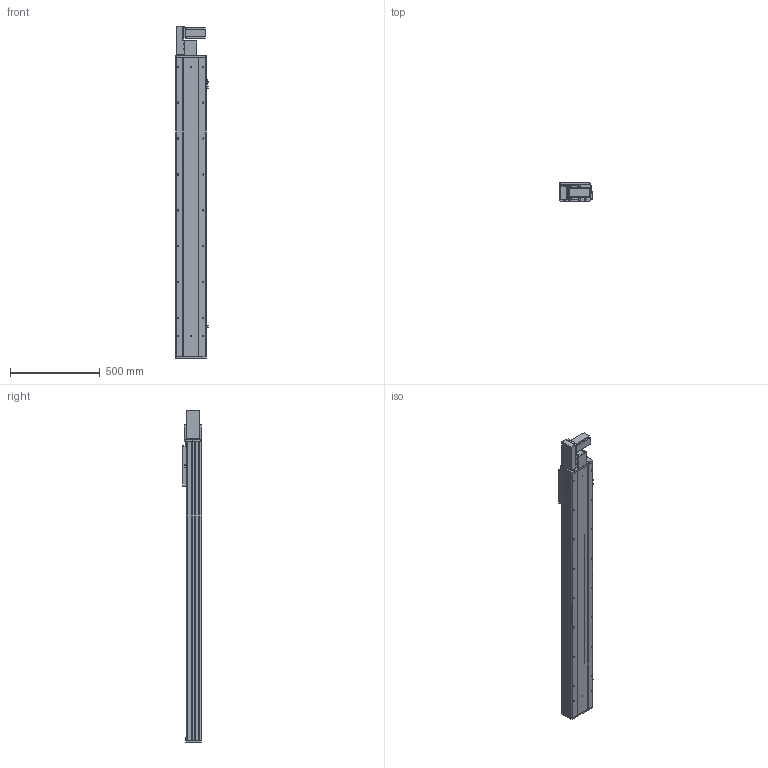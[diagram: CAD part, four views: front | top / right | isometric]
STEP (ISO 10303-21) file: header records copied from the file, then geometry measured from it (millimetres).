
FILE_DESCRIPTION (( 'STEP AP203' ), '1' );
FILE_NAME ('Y170CB-D105-S1350-BL-P400W.STEP', '2020-02-20T01:23:19', ( '微软用户' ), ( '微软中国' ), 'SwSTEP 2.0', 'SolidWorks 2017', '' );
FILE_SCHEMA (( 'CONFIG_CONTROL_DESIGN' ));
Length unit declared in the file: millimetre
Products named in the file (18): san松下电机400不带刹车----; 70CB-詩湍--; Y70俋欶BR----; Y100-135俋离換覜ん--; 70CB-掛极-; Y170CB-陔俋离換覜結え---; --70CB --喘謫眊楊擘啣-; 70B喘謫眊----; 70CB-耜裔啣-; Y1埴倛裔; 70C--詩湍揤踡え-; B-源倛裔啣; Y170CB-D105-S1350-BL-P400W; 70CB--耜裔; 17B-耜蚾蟀諉啣----; 70C-雄赽釱-奻-; 0B-萇儂楊擘啣; 0C--雄赽釱俋欶-170
Assembly tree (21 placements, depth 2):
  Y170CB-D105-S1350-BL-P400W
    B-源倛裔啣
    17B-耜蚾蟀諉啣----
    0B-萇儂楊擘啣
    san松下电机400不带刹车----
    Y70俋欶BR----
    70CB-掛极-
    --70CB --喘謫眊楊擘啣-
    70CB-耜裔啣-  x2
    70C--詩湍揤踡え-  x2
    70CB--耜裔
    70C-雄赽釱-奻-
    0C--雄赽釱俋欶-170
    70CB-詩湍--
    Y100-135俋离換覜ん--  x3
    Y170CB-陔俋离換覜結え---
    70B喘謫眊----
    Y1埴倛裔
Bounding box: 183.5 x 107 x 1847 mm (x, y, z)
Volume: 7915380.9 mm3; surface area: 2843057.1 mm2
Topology: 21 solids, 21 shells, 1023 faces, 2741 edges, 1818 vertices
Faces by surface type: cylinder 535, plane 464, cone 24
Entity records: 32612 total; most frequent: CARTESIAN_POINT 5976, DIRECTION 5302, ORIENTED_EDGE 4964, EDGE_CURVE 2482, AXIS2_PLACEMENT_3D 1944, VERTEX_POINT 1648, VECTOR 1414, LINE 1414
